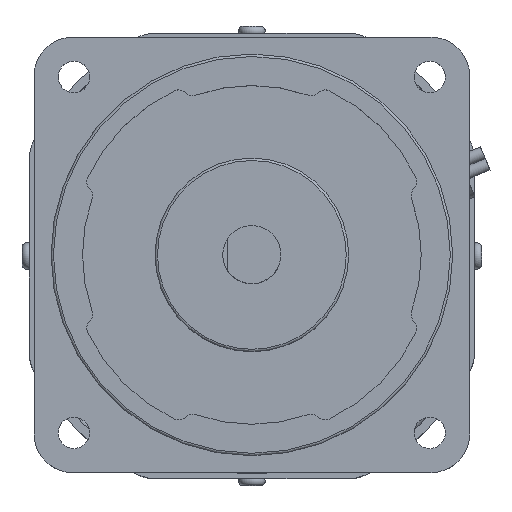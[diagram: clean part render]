
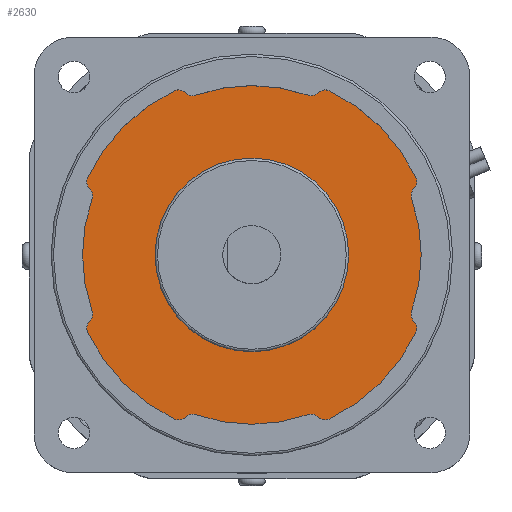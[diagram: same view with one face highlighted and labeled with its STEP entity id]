
A CAD part, top view. The second image highlights one B-rep face of the part: STEP entity #2630.
In plain terms, the highlighted planar face has unit normal (0, 0, 1).
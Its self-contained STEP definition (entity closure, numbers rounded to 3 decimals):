
#1311=CARTESIAN_POINT('',(20.0,0.,175.0));
#1312=VERTEX_POINT('',#1311);
#1313=CARTESIAN_POINT('',(0.,0.,175.0));
#1314=DIRECTION('',(0.0,0.0,-1.0));
#1315=DIRECTION('',(-1.0,0.0,0.0));
#1316=AXIS2_PLACEMENT_3D('',#1313,#1314,#1315);
#1317=CIRCLE('',#1316,20.0);
#1318=EDGE_CURVE('',#1312,#1312,#1317,.T.);
#1341=CARTESIAN_POINT('',(-13.722,-33.501,175.0));
#1342=VERTEX_POINT('',#1341);
#1358=CARTESIAN_POINT('',(-11.626,-33.013,175.0));
#1359=VERTEX_POINT('',#1358);
#1366=CARTESIAN_POINT('',(-12.291,-34.899,175.0));
#1367=DIRECTION('',(0.0,0.0,-1.0));
#1368=DIRECTION('',(-0.408,0.913,0.0));
#1369=AXIS2_PLACEMENT_3D('',#1366,#1367,#1368);
#1370=CIRCLE('',#1369,2.0);
#1371=EDGE_CURVE('',#1359,#1342,#1370,.F.);
#1391=CARTESIAN_POINT('',(11.626,-33.013,175.0));
#1392=VERTEX_POINT('',#1391);
#1399=CARTESIAN_POINT('',(0.,0.,175.0));
#1400=DIRECTION('',(0.,0.,1.0));
#1401=DIRECTION('',(-0.383,-0.924,0.));
#1402=AXIS2_PLACEMENT_3D('',#1399,#1400,#1401);
#1403=CIRCLE('',#1402,35.0);
#1404=EDGE_CURVE('',#1359,#1392,#1403,.T.);
#1414=CARTESIAN_POINT('',(13.722,-33.501,175.0));
#1415=VERTEX_POINT('',#1414);
#1424=CARTESIAN_POINT('',(12.291,-34.899,175.0));
#1425=DIRECTION('',(0.0,0.0,-1.0));
#1426=DIRECTION('',(0.408,0.913,0.0));
#1427=AXIS2_PLACEMENT_3D('',#1424,#1425,#1426);
#1428=CIRCLE('',#1427,2.0);
#1429=EDGE_CURVE('',#1415,#1392,#1428,.F.);
#1456=CARTESIAN_POINT('',(16.006,-33.913,175.0));
#1457=VERTEX_POINT('',#1456);
#1464=CARTESIAN_POINT('',(15.152,-32.104,175.0));
#1465=DIRECTION('',(0.0,0.0,1.0));
#1466=DIRECTION('',(0.715,0.699,0.0));
#1467=AXIS2_PLACEMENT_3D('',#1464,#1465,#1466);
#1468=CIRCLE('',#1467,2.);
#1469=EDGE_CURVE('',#1415,#1457,#1468,.T.);
#1480=CARTESIAN_POINT('',(33.913,-16.006,175.0));
#1481=VERTEX_POINT('',#1480);
#1490=CARTESIAN_POINT('',(0.,0.,175.0));
#1491=DIRECTION('',(0.,0.,1.0));
#1492=DIRECTION('',(0.383,-0.924,0.));
#1493=AXIS2_PLACEMENT_3D('',#1490,#1491,#1492);
#1494=CIRCLE('',#1493,37.5);
#1495=EDGE_CURVE('',#1457,#1481,#1494,.T.);
#1522=CARTESIAN_POINT('',(33.501,-13.722,175.0));
#1523=VERTEX_POINT('',#1522);
#1530=CARTESIAN_POINT('',(32.104,-15.152,175.0));
#1531=DIRECTION('',(0.0,0.0,1.0));
#1532=DIRECTION('',(-0.904,0.427,0.0));
#1533=AXIS2_PLACEMENT_3D('',#1530,#1531,#1532);
#1534=CIRCLE('',#1533,2.);
#1535=EDGE_CURVE('',#1481,#1523,#1534,.T.);
#1556=CARTESIAN_POINT('',(33.013,-11.626,175.0));
#1557=VERTEX_POINT('',#1556);
#1564=CARTESIAN_POINT('',(34.899,-12.291,175.0));
#1565=DIRECTION('',(0.0,0.0,-1.0));
#1566=DIRECTION('',(-0.913,-0.408,0.0));
#1567=AXIS2_PLACEMENT_3D('',#1564,#1565,#1566);
#1568=CIRCLE('',#1567,2.0);
#1569=EDGE_CURVE('',#1557,#1523,#1568,.F.);
#1579=CARTESIAN_POINT('',(33.013,11.626,175.0));
#1580=VERTEX_POINT('',#1579);
#1589=CARTESIAN_POINT('',(0.,0.,175.0));
#1590=DIRECTION('',(0.,0.,1.0));
#1591=DIRECTION('',(0.924,-0.383,0.));
#1592=AXIS2_PLACEMENT_3D('',#1589,#1590,#1591);
#1593=CIRCLE('',#1592,35.);
#1594=EDGE_CURVE('',#1557,#1580,#1593,.T.);
#1612=CARTESIAN_POINT('',(33.501,13.722,175.0));
#1613=VERTEX_POINT('',#1612);
#1622=CARTESIAN_POINT('',(34.899,12.291,175.0));
#1623=DIRECTION('',(0.0,0.0,-1.0));
#1624=DIRECTION('',(-0.913,0.408,0.0));
#1625=AXIS2_PLACEMENT_3D('',#1622,#1623,#1624);
#1626=CIRCLE('',#1625,2.0);
#1627=EDGE_CURVE('',#1613,#1580,#1626,.F.);
#1654=CARTESIAN_POINT('',(33.913,16.006,175.0));
#1655=VERTEX_POINT('',#1654);
#1662=CARTESIAN_POINT('',(32.104,15.152,175.0));
#1663=DIRECTION('',(0.0,0.0,1.0));
#1664=DIRECTION('',(-0.699,0.715,0.0));
#1665=AXIS2_PLACEMENT_3D('',#1662,#1663,#1664);
#1666=CIRCLE('',#1665,2.);
#1667=EDGE_CURVE('',#1613,#1655,#1666,.T.);
#1678=CARTESIAN_POINT('',(16.006,33.913,175.0));
#1679=VERTEX_POINT('',#1678);
#1688=CARTESIAN_POINT('',(0.,0.,175.0));
#1689=DIRECTION('',(0.,0.,1.0));
#1690=DIRECTION('',(0.924,0.383,0.));
#1691=AXIS2_PLACEMENT_3D('',#1688,#1689,#1690);
#1692=CIRCLE('',#1691,37.5);
#1693=EDGE_CURVE('',#1655,#1679,#1692,.T.);
#1720=CARTESIAN_POINT('',(13.722,33.501,175.0));
#1721=VERTEX_POINT('',#1720);
#1728=CARTESIAN_POINT('',(15.152,32.104,175.0));
#1729=DIRECTION('',(0.0,0.0,1.0));
#1730=DIRECTION('',(-0.427,-0.904,0.0));
#1731=AXIS2_PLACEMENT_3D('',#1728,#1729,#1730);
#1732=CIRCLE('',#1731,2.);
#1733=EDGE_CURVE('',#1679,#1721,#1732,.T.);
#1754=CARTESIAN_POINT('',(11.626,33.013,175.0));
#1755=VERTEX_POINT('',#1754);
#1762=CARTESIAN_POINT('',(12.291,34.899,175.0));
#1763=DIRECTION('',(0.0,0.0,-1.0));
#1764=DIRECTION('',(0.408,-0.913,0.0));
#1765=AXIS2_PLACEMENT_3D('',#1762,#1763,#1764);
#1766=CIRCLE('',#1765,2.0);
#1767=EDGE_CURVE('',#1755,#1721,#1766,.F.);
#1777=CARTESIAN_POINT('',(-11.626,33.013,175.0));
#1778=VERTEX_POINT('',#1777);
#1787=CARTESIAN_POINT('',(0.,0.,175.0));
#1788=DIRECTION('',(0.,0.,1.0));
#1789=DIRECTION('',(0.383,0.924,0.));
#1790=AXIS2_PLACEMENT_3D('',#1787,#1788,#1789);
#1791=CIRCLE('',#1790,35.0);
#1792=EDGE_CURVE('',#1755,#1778,#1791,.T.);
#1810=CARTESIAN_POINT('',(-13.722,33.501,175.0));
#1811=VERTEX_POINT('',#1810);
#1820=CARTESIAN_POINT('',(-12.291,34.899,175.0));
#1821=DIRECTION('',(0.0,0.0,-1.0));
#1822=DIRECTION('',(-0.408,-0.913,0.0));
#1823=AXIS2_PLACEMENT_3D('',#1820,#1821,#1822);
#1824=CIRCLE('',#1823,2.0);
#1825=EDGE_CURVE('',#1811,#1778,#1824,.F.);
#1852=CARTESIAN_POINT('',(-16.006,33.913,175.0));
#1853=VERTEX_POINT('',#1852);
#1860=CARTESIAN_POINT('',(-15.152,32.104,175.0));
#1861=DIRECTION('',(0.0,0.0,1.0));
#1862=DIRECTION('',(-0.715,-0.699,0.0));
#1863=AXIS2_PLACEMENT_3D('',#1860,#1861,#1862);
#1864=CIRCLE('',#1863,2.);
#1865=EDGE_CURVE('',#1811,#1853,#1864,.T.);
#1886=CARTESIAN_POINT('',(-33.913,16.006,175.0));
#1887=VERTEX_POINT('',#1886);
#1894=CARTESIAN_POINT('',(0.,0.,175.0));
#1895=DIRECTION('',(0.,0.,1.0));
#1896=DIRECTION('',(-0.383,0.924,0.));
#1897=AXIS2_PLACEMENT_3D('',#1894,#1895,#1896);
#1898=CIRCLE('',#1897,37.5);
#1899=EDGE_CURVE('',#1853,#1887,#1898,.T.);
#1918=CARTESIAN_POINT('',(-33.501,13.722,175.0));
#1919=VERTEX_POINT('',#1918);
#1926=CARTESIAN_POINT('',(-32.104,15.152,175.0));
#1927=DIRECTION('',(0.0,0.0,1.0));
#1928=DIRECTION('',(0.904,-0.427,0.0));
#1929=AXIS2_PLACEMENT_3D('',#1926,#1927,#1928);
#1930=CIRCLE('',#1929,2.);
#1931=EDGE_CURVE('',#1887,#1919,#1930,.T.);
#1952=CARTESIAN_POINT('',(-33.013,11.626,175.0));
#1953=VERTEX_POINT('',#1952);
#1960=CARTESIAN_POINT('',(-34.899,12.291,175.0));
#1961=DIRECTION('',(0.0,0.0,-1.0));
#1962=DIRECTION('',(0.913,0.408,0.0));
#1963=AXIS2_PLACEMENT_3D('',#1960,#1961,#1962);
#1964=CIRCLE('',#1963,2.0);
#1965=EDGE_CURVE('',#1953,#1919,#1964,.F.);
#1975=CARTESIAN_POINT('',(-33.013,-11.626,175.0));
#1976=VERTEX_POINT('',#1975);
#1985=CARTESIAN_POINT('',(0.,0.,175.0));
#1986=DIRECTION('',(0.,0.,1.0));
#1987=DIRECTION('',(-0.924,0.383,0.));
#1988=AXIS2_PLACEMENT_3D('',#1985,#1986,#1987);
#1989=CIRCLE('',#1988,35.0);
#1990=EDGE_CURVE('',#1953,#1976,#1989,.T.);
#2008=CARTESIAN_POINT('',(-33.501,-13.722,175.0));
#2009=VERTEX_POINT('',#2008);
#2018=CARTESIAN_POINT('',(-34.899,-12.291,175.0));
#2019=DIRECTION('',(0.0,0.0,-1.0));
#2020=DIRECTION('',(0.913,-0.408,0.0));
#2021=AXIS2_PLACEMENT_3D('',#2018,#2019,#2020);
#2022=CIRCLE('',#2021,2.0);
#2023=EDGE_CURVE('',#2009,#1976,#2022,.F.);
#2050=CARTESIAN_POINT('',(-33.913,-16.006,175.0));
#2051=VERTEX_POINT('',#2050);
#2058=CARTESIAN_POINT('',(-32.104,-15.152,175.0));
#2059=DIRECTION('',(0.0,0.0,1.0));
#2060=DIRECTION('',(0.699,-0.715,0.0));
#2061=AXIS2_PLACEMENT_3D('',#2058,#2059,#2060);
#2062=CIRCLE('',#2061,2.);
#2063=EDGE_CURVE('',#2009,#2051,#2062,.T.);
#2074=CARTESIAN_POINT('',(-16.006,-33.913,175.0));
#2075=VERTEX_POINT('',#2074);
#2084=CARTESIAN_POINT('',(0.,0.,175.0));
#2085=DIRECTION('',(0.,0.,1.0));
#2086=DIRECTION('',(-0.924,-0.383,0.));
#2087=AXIS2_PLACEMENT_3D('',#2084,#2085,#2086);
#2088=CIRCLE('',#2087,37.5);
#2089=EDGE_CURVE('',#2051,#2075,#2088,.T.);
#2115=CARTESIAN_POINT('',(-15.152,-32.104,175.0));
#2116=DIRECTION('',(0.0,0.0,1.0));
#2117=DIRECTION('',(0.427,0.904,0.0));
#2118=AXIS2_PLACEMENT_3D('',#2115,#2116,#2117);
#2119=CIRCLE('',#2118,2.);
#2120=EDGE_CURVE('',#2075,#1342,#2119,.T.);
#2596=CARTESIAN_POINT('',(0.,0.,175.0));
#2597=DIRECTION('',(0.0,0.0,1.0));
#2598=DIRECTION('',(1.0,0.0,0.0));
#2599=AXIS2_PLACEMENT_3D('',#2596,#2597,#2598);
#2600=PLANE('',#2599);
#2601=ORIENTED_EDGE('',*,*,#2120,.T.);
#2602=ORIENTED_EDGE('',*,*,#1371,.F.);
#2603=ORIENTED_EDGE('',*,*,#1404,.T.);
#2604=ORIENTED_EDGE('',*,*,#1429,.F.);
#2605=ORIENTED_EDGE('',*,*,#1469,.T.);
#2606=ORIENTED_EDGE('',*,*,#1495,.T.);
#2607=ORIENTED_EDGE('',*,*,#1535,.T.);
#2608=ORIENTED_EDGE('',*,*,#1569,.F.);
#2609=ORIENTED_EDGE('',*,*,#1594,.T.);
#2610=ORIENTED_EDGE('',*,*,#1627,.F.);
#2611=ORIENTED_EDGE('',*,*,#1667,.T.);
#2612=ORIENTED_EDGE('',*,*,#1693,.T.);
#2613=ORIENTED_EDGE('',*,*,#1733,.T.);
#2614=ORIENTED_EDGE('',*,*,#1767,.F.);
#2615=ORIENTED_EDGE('',*,*,#1792,.T.);
#2616=ORIENTED_EDGE('',*,*,#1825,.F.);
#2617=ORIENTED_EDGE('',*,*,#1865,.T.);
#2618=ORIENTED_EDGE('',*,*,#1899,.T.);
#2619=ORIENTED_EDGE('',*,*,#1931,.T.);
#2620=ORIENTED_EDGE('',*,*,#1965,.F.);
#2621=ORIENTED_EDGE('',*,*,#1990,.T.);
#2622=ORIENTED_EDGE('',*,*,#2023,.F.);
#2623=ORIENTED_EDGE('',*,*,#2063,.T.);
#2624=ORIENTED_EDGE('',*,*,#2089,.T.);
#2625=EDGE_LOOP('',(#2601,#2602,#2603,#2604,#2605,#2606,#2607,#2608,#2609,#2610,#2611,#2612,#2613,#2614,#2615,#2616,#2617,#2618,#2619,#2620,#2621,#2622,#2623,#2624));
#2626=FACE_OUTER_BOUND('',#2625,.T.);
#2627=ORIENTED_EDGE('',*,*,#1318,.T.);
#2628=EDGE_LOOP('',(#2627));
#2629=FACE_BOUND('',#2628,.T.);
#2630=ADVANCED_FACE('',(#2626,#2629),#2600,.T.);
